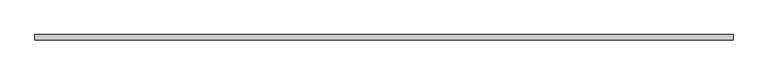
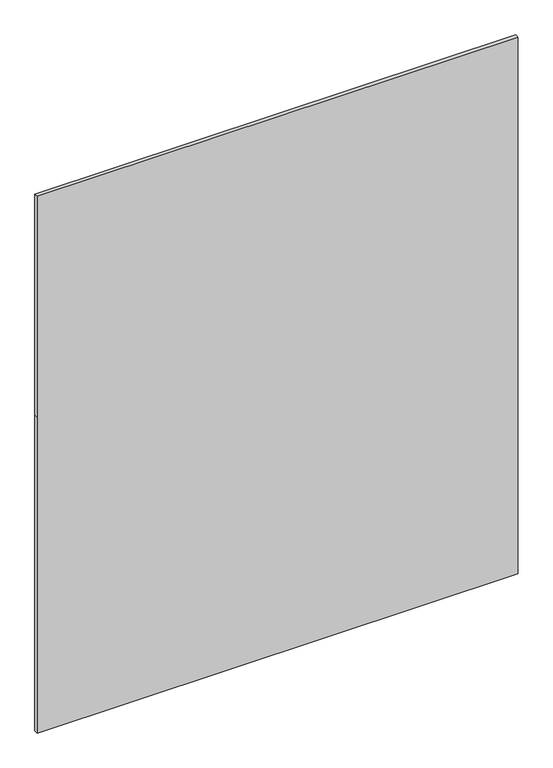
"""IFC4 building model written with IfcOpenShell, lengths in millimetres: plate geometry, 系统嵌板 : 玻璃."""

from ifc_helpers import new_model, si_unit, frame, origin, place, context, project, spatial, polyline, outline, extrude, source, transform, mapped, element, save


def plate_697b7dca(model_context):
    return source(origin(), model_context, "Body", "SweptSolid", [
        extrude(outline(polyline([(0.0, -1635.0), (0.0, 1635.0), (2270.0, 1635.0), (3855.0, 1635.0), (3855.0, -1635.0), (2270.0, -1635.0), (0.0, -1635.0)])), frame((0.0, -12.5, 0.0), z_axis=(0.0, 1.0, 0.0), x_axis=(0.0, 0.0, 1.0)), (0.0, 0.0, 1.0), 25.0),
    ])


if __name__ == "__main__":
    model = new_model("IFC4")
    model_context = context("Model", 3, world=origin())
    ifc_project = project(units=[si_unit("LENGTHUNIT", "METRE", prefix="MILLI")], contexts=[model_context])
    site = spatial("IfcSite", under=ifc_project)
    building = spatial("IfcBuilding", under=site)
    placement = place(None, origin())
    plate_shape = plate_697b7dca(model_context)
    element("IfcPlate", 1, ObjectType="系统嵌板 : 玻璃", at=placement, inside=building, context=model_context, shape_type="MappedRepresentation", body=[
        mapped(plate_shape, transform((0.0, 0.0, 0.0), x_axis=(1.0, 0.0, 0.0), y_axis=(0.0, 1.0, 0.0), z_axis=(0.0, 0.0, 1.0))),
    ])
    save(model, "model.ifc")
